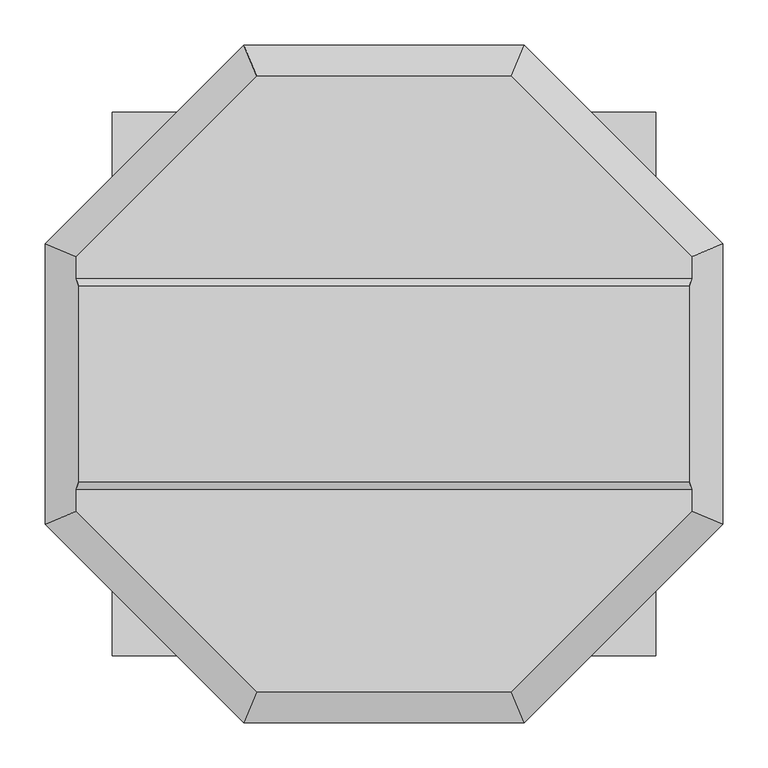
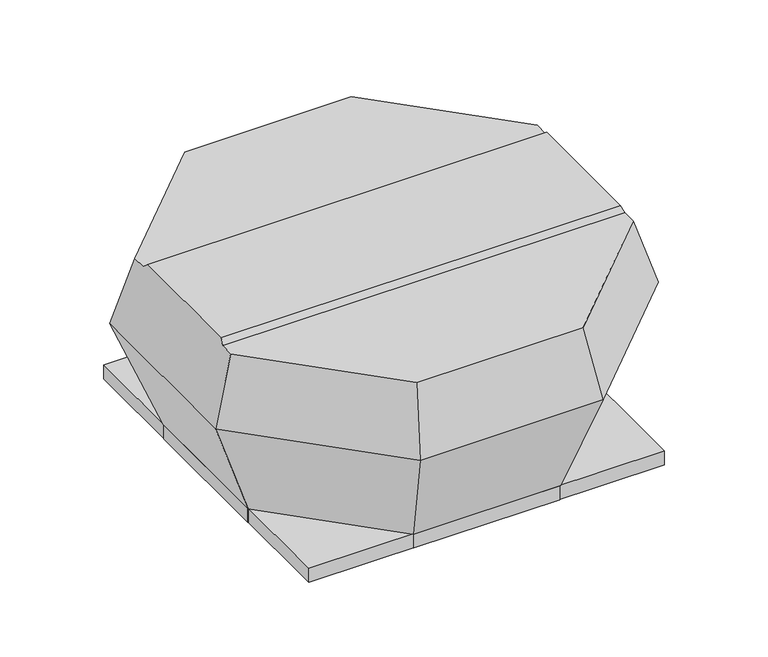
"""IFC4 building model written with IfcOpenShell, lengths in millimetres: unitary equipment geometry, VE-Wentylator-ParaForma-Harmann-VIVER-Wywiewny : 4-355/2700S."""

import ifcopenshell
import ifcopenshell.guid

model = None  # the IFC model being written
_history = None  # IfcOwnerHistory: only IFC2X3 demands one
_inside = {}  # id of a spatial element -> (the spatial element, [elements in it])
_under = {}  # id of a project, library or spatial element -> (it, [spatial elements below it])
_declared = {}  # id of a project -> (the project, [libraries it declares])
_typed = {}  # id of a type object -> (the type object, [elements of that type])
_made_of = {}  # id of a material, layer set ... -> (it, [elements and type objects made of it])


def new_model(schema):
    """Start an empty IFC model of exactly this schema.

    Asked for "IFC4X3", IfcOpenShell would pick the latest addendum, in which some entities
    have other attributes; the version numbers below select the first issue.
    IFC2X3 requires an IfcOwnerHistory on every rooted entity: one is made here for all.
    """
    global model, _history
    if schema == "IFC4X3":
        model = ifcopenshell.file(schema_version=(4, 3, 0, 0))
    else:
        model = ifcopenshell.file(schema=schema)
    _inside.clear()
    _under.clear()
    _declared.clear()
    _typed.clear()
    _made_of.clear()
    _history = None
    if model.schema == "IFC2X3":
        org = make("IfcOrganization", Name="unknown")
        user = make(
            "IfcPersonAndOrganization",
            ThePerson=make("IfcPerson", FamilyName="unknown"),
            TheOrganization=org,
        )
        app = make(
            "IfcApplication",
            ApplicationDeveloper=org,
            Version="unknown",
            ApplicationFullName="unknown",
            ApplicationIdentifier="unknown",
        )
        _history = make(
            "IfcOwnerHistory",
            OwningUser=user,
            OwningApplication=app,
            ChangeAction="ADDED",
            CreationDate=0,
        )
    return model


def make(cls, **values):
    """One entity of the class cls with the attributes given. An attribute that is None is left unset."""
    return model.create_entity(
        cls, **{name: value for name, value in values.items() if value is not None}
    )


def rooted(cls, **values):
    """An entity with a GlobalId (a new one), such as an element, a storey or a relation."""
    return make(cls, GlobalId=ifcopenshell.guid.new(), OwnerHistory=_history, **values)


def si_unit(unit_type, name, prefix=None):
    """IfcSIUnit, for example si_unit("LENGTHUNIT", "METRE", prefix="MILLI")."""
    return make("IfcSIUnit", UnitType=unit_type, Prefix=prefix, Name=name)


def assignment(units):
    """IfcUnitAssignment: the units of a project."""
    return None if units is None else make("IfcUnitAssignment", Units=units)


def point(xyz):
    """IfcCartesianPoint."""
    return None if xyz is None else make("IfcCartesianPoint", Coordinates=xyz)


def direction(xyz):
    """IfcDirection."""
    return None if xyz is None else make("IfcDirection", DirectionRatios=xyz)


def frame(location, z_axis=None, x_axis=None):
    """IfcAxis2Placement3D, a coordinate frame: its origin and axes. An axis left out is left unset."""
    return make(
        "IfcAxis2Placement3D",
        Location=point(location),
        Axis=direction(z_axis),
        RefDirection=direction(x_axis),
    )


def origin():
    """The frame at (0, 0, 0) with its axes left unset."""
    return frame((0.0, 0.0, 0.0))


def place(relative_to, where):
    """IfcLocalPlacement: puts the frame where relative to a parent placement (None: the world)."""
    return make(
        "IfcLocalPlacement", PlacementRelTo=relative_to, RelativePlacement=where
    )


def context(
    kind, dimensions, precision=None, world=None, true_north=None, identifier=None
):
    """IfcGeometricRepresentationContext, for example the 3D "Model" context."""
    return make(
        "IfcGeometricRepresentationContext",
        ContextIdentifier=identifier,
        ContextType=kind,
        CoordinateSpaceDimension=dimensions,
        Precision=precision,
        WorldCoordinateSystem=world,
        TrueNorth=true_north,
    )


def project(units=None, contexts=None):
    """IfcProject with its units and contexts."""
    return rooted(
        "IfcProject",
        Name="project",
        RepresentationContexts=contexts,
        UnitsInContext=assignment(units),
    )


def spatial(cls, under=None, at=None, **own):
    """A site, building, storey or space (cls), placed at a placement, below another one or the project."""
    s = rooted(cls, ObjectPlacement=at, **own)
    if under is not None:
        _under.setdefault(under.id(), (under, []))[1].append(s)
    return s


def faces_of(points, faces, orient=None, outer=None):
    """IfcFace entities. A face is a list of loops; a loop is a list of indices into points, from 0.

    orient and outer hold one flag for each loop. By default every Orientation is true, the
    first loop of a face is its IfcFaceOuterBound and the others are IfcFaceBound.
    """
    made = []
    for i, loops in enumerate(faces):
        bounds = []
        for j, loop in enumerate(loops):
            is_outer = j == 0 if outer is None else outer[i][j]
            bounds.append(
                make(
                    "IfcFaceOuterBound" if is_outer else "IfcFaceBound",
                    Bound=make("IfcPolyLoop", Polygon=[points[k] for k in loop]),
                    Orientation=True if orient is None else orient[i][j],
                )
            )
        made.append(make("IfcFace", Bounds=bounds))
    return made


def faceted_brep(points, faces, orient=None, outer=None, voids=None):
    """IfcFacetedBrep: a solid bounded by flat faces; with voids (closed shells), ...WithVoids."""
    shared = [point(p) for p in points]
    hull = make("IfcClosedShell", CfsFaces=faces_of(shared, faces, orient, outer))
    if voids is None:
        return make("IfcFacetedBrep", Outer=hull)
    return make(
        "IfcFacetedBrepWithVoids",
        Outer=hull,
        Voids=[
            make(cls, CfsFaces=faces_of(shared, fs, o, b)) for cls, fs, o, b in voids
        ],
    )


def shape(context_of_items, identifier, shape_type, items):
    """IfcShapeRepresentation: the items that make up one representation, for example the "Body"."""
    return make(
        "IfcShapeRepresentation",
        ContextOfItems=context_of_items,
        RepresentationIdentifier=identifier,
        RepresentationType=shape_type,
        Items=items,
    )


def source(mapping_origin, context_of_items, identifier, shape_type, items):
    """IfcRepresentationMap: a shape defined once, which mapped items show again and again."""
    return make(
        "IfcRepresentationMap",
        MappingOrigin=mapping_origin,
        MappedRepresentation=shape(context_of_items, identifier, shape_type, items),
    )


def transform(
    local_origin,
    x_axis=None,
    y_axis=None,
    z_axis=None,
    scale=None,
    scale2=None,
    scale3=None,
    uniform=True,
):
    """IfcCartesianTransformationOperator3D, or its non-uniform kind. x_axis, y_axis, z_axis: its Axis1, 2, 3."""
    if uniform:
        return make(
            "IfcCartesianTransformationOperator3D",
            Axis1=direction(x_axis),
            Axis2=direction(y_axis),
            LocalOrigin=point(local_origin),
            Scale=scale,
            Axis3=direction(z_axis),
        )
    return make(
        "IfcCartesianTransformationOperator3DnonUniform",
        Axis1=direction(x_axis),
        Axis2=direction(y_axis),
        LocalOrigin=point(local_origin),
        Scale=scale,
        Axis3=direction(z_axis),
        Scale2=scale2,
        Scale3=scale3,
    )


def mapped(mapping_source, mapping_target):
    """IfcMappedItem: shows the shape of a source again, moved by a transform."""
    return make(
        "IfcMappedItem", MappingSource=mapping_source, MappingTarget=mapping_target
    )


def made_of(thing, what):
    """Note that an element or type object is made of a material, layer set ...; save() writes the relation."""
    if what is not None:
        _made_of.setdefault(what.id(), (what, []))[1].append(thing)
    return thing


def element(
    cls,
    number,
    at=None,
    inside=None,
    cuts=None,
    type_object=None,
    material=None,
    context=None,
    identifier="Body",
    shape_type=None,
    held_by="IfcProductDefinitionShape",
    body=None,
    shapes=None,
    **own,
):
    """One element of the class cls, such as IfcWall. Its Tag is "e" and its number.

    at: its placement. inside: the storey or other place that contains it. cuts: it is an
    opening in that element (IfcRelVoidsElement). A single representation is given by context,
    identifier, shape_type and body (its items); several are given by shapes. held_by: the class
    of the entity that holds the representations. save() writes the other relations.
    """
    e = rooted(cls, Tag="e%d" % number, ObjectPlacement=at, **own)
    if body is not None:
        shapes = [shape(context, identifier, shape_type, body)]
    if shapes is not None:
        e.Representation = make(held_by, Representations=shapes)
    if inside is not None:
        _inside.setdefault(inside.id(), (inside, []))[1].append(e)
    if cuts is not None:
        rooted(
            "IfcRelVoidsElement", RelatingBuildingElement=cuts, RelatedOpeningElement=e
        )
    if type_object is not None:
        _typed.setdefault(type_object.id(), (type_object, []))[1].append(e)
    return made_of(e, material)


def aggregate(whole, parts):
    """IfcRelAggregates: a whole, such as a stair, and the parts it consists of."""
    return rooted("IfcRelAggregates", RelatingObject=whole, RelatedObjects=parts)


def save(model, path):
    """Write the relations noted so far, then the file.

    IfcRelAggregates (storeys below a building ...), IfcRelContainedInSpatialStructure (elements
    in a storey), IfcRelDefinesByType, IfcRelAssociatesMaterial and IfcRelDeclares: one each for
    every whole, place, type object, material and project.
    """
    for whole, parts in _under.values():
        aggregate(whole, parts)
    for where, things in _inside.values():
        rooted(
            "IfcRelContainedInSpatialStructure",
            RelatedElements=things,
            RelatingStructure=where,
        )
    for kind, things in _typed.values():
        rooted("IfcRelDefinesByType", RelatedObjects=things, RelatingType=kind)
    for what, things in _made_of.values():
        rooted("IfcRelAssociatesMaterial", RelatedObjects=things, RelatingMaterial=what)
    for by, libraries in _declared.values():
        rooted("IfcRelDeclares", RelatingContext=by, RelatedDefinitions=libraries)
    model.write(path)


def unitary_equipment_f340779e(model_context):
    return source(origin(), model_context, "Body", "Brep", [
        faceted_brep([(336.1792386, -107.5, 309.5), (336.1792386, 107.5, 309.5), (-336.1792386, 107.5, 309.5), (-336.1792386, -107.5, 309.5), (338.7141628, 115.95, 301.1), (-338.7141628, 115.95, 301.1), (338.7141628, -115.95, 301.1), (-338.7141628, -115.95, 301.1), (140.3, -338.7141628, 301.1), (338.7141628, -140.3, 301.1), (-338.7141628, -140.3, 301.1), (-140.3, -338.7141628, 301.1), (338.7141628, 140.3, 301.1), (140.3, 338.7141628, 301.1), (-140.3, 338.7141628, 301.1), (-338.7141628, 140.3, 301.1), (154.4, -372.754574, 188.3), (372.754574, -154.4, 188.3), (372.754574, 154.4, 188.3), (154.4, 372.754574, 188.3), (-154.4, 372.754574, 188.3), (-372.754574, 154.4, 188.3), (-372.754574, -154.4, 188.3), (-154.4, -372.754574, 188.3), (124.3, -300.0867458, 1.5), (-124.3, -300.0867458, 1.5), (-300.0867458, -124.3, 1.5), (-300.0867458, 124.3, 1.5), (-124.3, 300.0867458, 1.5), (124.3, 300.0867458, 1.5), (300.0867458, 124.3, 1.5), (300.0867458, -124.3, 1.5)], [[[0, 1, 2, 3]], [[1, 4, 5, 2]], [[6, 0, 3, 7]], [[8, 9, 6, 7, 10, 11]], [[12, 13, 14, 15, 5, 4]], [[9, 8, 16, 17]], [[9, 17, 18, 12, 4, 1, 0, 6]], [[13, 12, 18, 19]], [[14, 13, 19, 20]], [[15, 14, 20, 21]], [[15, 21, 22, 10, 7, 3, 2, 5]], [[11, 10, 22, 23]], [[8, 11, 23, 16]], [[24, 25, 26, 27, 28, 29, 30, 31]], [[24, 31, 17, 16]], [[31, 30, 18, 17]], [[30, 29, 19, 18]], [[29, 28, 20, 19]], [[28, 27, 21, 20]], [[27, 26, 22, 21]], [[26, 25, 23, 22]], [[25, 24, 16, 23]]]),
        faceted_brep([(297.5, 297.5, -23.5), (297.5, 297.5, 0.0), (-297.5, 297.5, 0.0), (-297.5, 297.5, -23.5), (299.0, 299.0, 1.5), (299.0, 299.0, -23.5), (-299.0, 299.0, -23.5), (-299.0, 299.0, 1.5), (-297.5, -297.5, 0.0), (-297.5, -297.5, -23.5), (-299.0, -299.0, -23.5), (-299.0, -299.0, 1.5), (297.5, -297.5, 0.0), (297.5, -297.5, -23.5), (299.0, -299.0, -23.5), (299.0, -299.0, 1.5)], [[[0, 1, 2, 3]], [[4, 5, 6, 7]], [[3, 2, 8, 9]], [[7, 6, 10, 11]], [[9, 8, 12, 13]], [[11, 10, 14, 15]], [[13, 12, 1, 0]], [[5, 14, 10, 6], [3, 9, 13, 0]], [[15, 14, 5, 4]], [[7, 11, 15, 4]], [[1, 12, 8, 2]]]),
        faceted_brep([(-299.0, -122.7, -23.5), (-300.0, -122.7, -23.5), (-300.0, 122.7, -23.5), (-299.0, 122.7, -23.5), (-299.0, -122.7, 1.5), (-299.0, 122.7, 1.5), (-300.0, 122.7, 1.5), (-300.0, -122.7, 1.5)], [[[0, 1, 2, 3]], [[4, 5, 6, 7]], [[1, 0, 4, 7]], [[2, 1, 7, 6]], [[3, 2, 6, 5]], [[0, 3, 5, 4]]]),
        faceted_brep([(300.0, -122.7, -23.5), (299.0, -122.7, -23.5), (299.0, 122.7, -23.5), (300.0, 122.7, -23.5), (300.0, 122.7, 1.5), (299.0, 122.7, 1.5), (299.0, 5.0, 1.5), (299.0, -5.0, 1.5), (299.0, -122.7, 1.5), (300.0, -122.7, 1.5), (300.0, -5.0, 1.5), (300.0, 5.0, 1.5)], [[[0, 1, 2, 3]], [[4, 5, 6, 7, 8, 9, 10, 11]], [[1, 0, 9, 8]], [[2, 1, 8, 7, 6, 5]], [[3, 2, 5, 4]], [[0, 3, 4, 11, 10, 9]]]),
        faceted_brep([(122.7, 299.0, -23.5), (-122.7, 299.0, -23.5), (-122.7, 300.0, -23.5), (122.7, 300.0, -23.5), (122.7, 299.0, 1.5), (122.7, 300.0, 1.5), (-122.7, 300.0, 1.5), (-122.7, 299.0, 1.5)], [[[0, 1, 2, 3]], [[4, 5, 6, 7]], [[1, 0, 4, 7]], [[2, 1, 7, 6]], [[3, 2, 6, 5]], [[0, 3, 5, 4]]]),
        faceted_brep([(122.7, -300.0, -23.5), (-122.7, -300.0, -23.5), (-122.7, -299.0, -23.5), (122.7, -299.0, -23.5), (122.7, -300.0, 1.5), (122.7, -299.0, 1.5), (-122.7, -299.0, 1.5), (-122.7, -300.0, 1.5)], [[[0, 1, 2, 3]], [[4, 5, 6, 7]], [[1, 0, 4, 7]], [[2, 1, 7, 6]], [[3, 2, 6, 5]], [[0, 3, 5, 4]]]),
    ])


if __name__ == "__main__":
    model = new_model("IFC4")
    model_context = context("Model", 3, world=origin())
    ifc_project = project(units=[si_unit("LENGTHUNIT", "METRE", prefix="MILLI")], contexts=[model_context])
    site = spatial("IfcSite", under=ifc_project)
    building = spatial("IfcBuilding", under=site)
    placement = place(None, origin())
    unitary_equipment_shape = unitary_equipment_f340779e(model_context)
    element("IfcUnitaryEquipment", 1, ObjectType="VE-Wentylator-ParaForma-Harmann-VIVER-Wywiewny : 4-355/2700S", at=placement, inside=building, context=model_context, shape_type="MappedRepresentation", body=[
        mapped(unitary_equipment_shape, transform((0.0, 0.0, 0.0), x_axis=(1.0, 0.0, 0.0), y_axis=(0.0, 1.0, 0.0), z_axis=(0.0, 0.0, 1.0))),
    ])
    save(model, "model.ifc")
